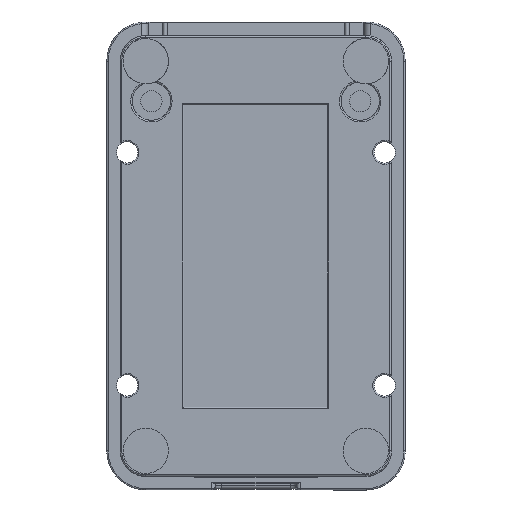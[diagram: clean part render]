
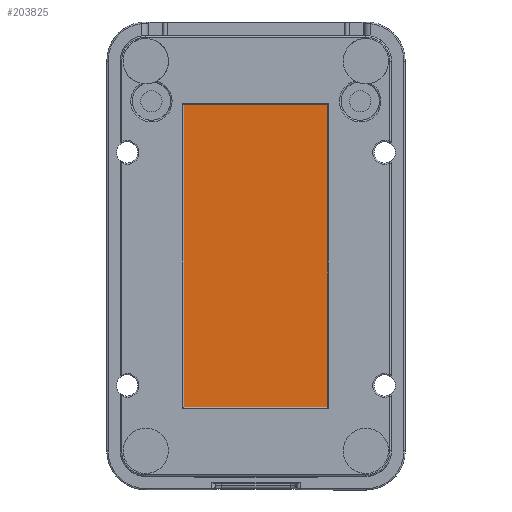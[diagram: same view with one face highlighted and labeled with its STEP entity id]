
A CAD part, front view. The second image highlights one B-rep face of the part: STEP entity #203825.
In plain terms, the highlighted planar face has unit normal (0, -1, 0).
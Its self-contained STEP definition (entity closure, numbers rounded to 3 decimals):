
#5150 = CARTESIAN_POINT ( 'NONE',  ( 49.804, 18.085, 53.575 ) ) ;
#21176 = LINE ( 'NONE', #192712, #77278 ) ;
#33955 = EDGE_CURVE ( 'NONE', #169629, #130848, #358089, .T. ) ;
#39832 = ORIENTED_EDGE ( 'NONE', *, *, #33955, .T. ) ;
#41524 = DIRECTION ( 'NONE',  ( 0., 1., 0. ) ) ;
#58954 = EDGE_CURVE ( 'NONE', #243989, #169629, #308660, .T. ) ;
#77278 = VECTOR ( 'NONE', #305308, 1000. ) ;
#77404 = CARTESIAN_POINT ( 'NONE',  ( 27.604, 18.085, 6.875 ) ) ;
#81950 = EDGE_LOOP ( 'NONE', ( #123675, #168424, #39832, #317919 ) ) ;
#103032 = CARTESIAN_POINT ( 'NONE',  ( 27.604, 18.085, 6.875 ) ) ;
#123675 = ORIENTED_EDGE ( 'NONE', *, *, #149360, .T. ) ;
#130848 = VERTEX_POINT ( 'NONE', #103032 ) ;
#139176 = CARTESIAN_POINT ( 'NONE',  ( 27.604, 18.085, 53.575 ) ) ;
#147494 = DIRECTION ( 'NONE',  ( 0., 0., -1. ) ) ;
#149360 = EDGE_CURVE ( 'NONE', #198776, #243989, #220542, .T. ) ;
#165036 = VECTOR ( 'NONE', #281032, 1000. ) ;
#168424 = ORIENTED_EDGE ( 'NONE', *, *, #58954, .T. ) ;
#169629 = VERTEX_POINT ( 'NONE', #139176 ) ;
#180046 = CARTESIAN_POINT ( 'NONE',  ( 38.704, 18.085, 30.225 ) ) ;
#183608 = DIRECTION ( 'NONE',  ( 0., 0., 1. ) ) ;
#192712 = CARTESIAN_POINT ( 'NONE',  ( 27.604, 18.085, 6.875 ) ) ;
#194695 = DIRECTION ( 'NONE',  ( 0., 0., 1. ) ) ;
#198776 = VERTEX_POINT ( 'NONE', #275957 ) ;
#203825 = ADVANCED_FACE ( 'NONE', ( #294453 ), #244550, .F. ) ;
#220542 = LINE ( 'NONE', #248272, #270083 ) ;
#243989 = VERTEX_POINT ( 'NONE', #5150 ) ;
#244550 = PLANE ( 'NONE',  #340450 ) ;
#248272 = CARTESIAN_POINT ( 'NONE',  ( 49.804, 18.085, 6.875 ) ) ;
#252045 = VECTOR ( 'NONE', #147494, 1000. ) ;
#270083 = VECTOR ( 'NONE', #194695, 1000. ) ;
#275957 = CARTESIAN_POINT ( 'NONE',  ( 49.804, 18.085, 6.875 ) ) ;
#281032 = DIRECTION ( 'NONE',  ( -1., 0., 0. ) ) ;
#283106 = EDGE_CURVE ( 'NONE', #130848, #198776, #21176, .T. ) ;
#294453 = FACE_OUTER_BOUND ( 'NONE', #81950, .T. ) ;
#305308 = DIRECTION ( 'NONE',  ( 1., 0., 0. ) ) ;
#308660 = LINE ( 'NONE', #312282, #165036 ) ;
#312282 = CARTESIAN_POINT ( 'NONE',  ( 27.604, 18.085, 53.575 ) ) ;
#317919 = ORIENTED_EDGE ( 'NONE', *, *, #283106, .T. ) ;
#340450 = AXIS2_PLACEMENT_3D ( 'NONE', #180046, #41524, #183608 ) ;
#358089 = LINE ( 'NONE', #77404, #252045 ) ;
